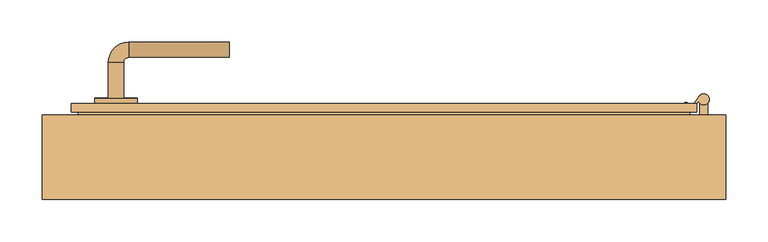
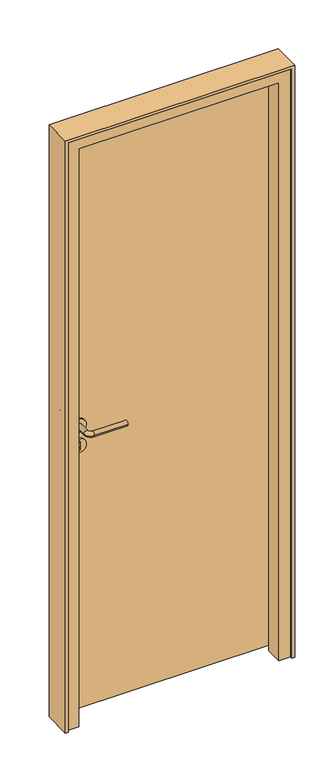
"""IFC4 building model written with IfcOpenShell, lengths in millimetres: door geometry, JW_Interior_Door_Steady_411_Single_1.0 : 790 x 1890 mm - M8 x M19."""

from ifc_helpers import new_model, si_unit, point, frame, frame_2d, origin, place, context, project, spatial, polyline, circle_curve, ellipse_curve, trimmed, segment, composite_curve, outline, extrude, faceted_brep, source, transform, mapped, element, save
from ifc_brep_helpers import plane_surface, cylinder_surface, revolved_surface, advanced_brep


def door_2890b558(model_context):
    return source(origin(), model_context, "Body", "SolidModel", [
        advanced_brep(
        [(372.6872752, 66.5978645, 1955.5), (373.5783674, 72.2251091, 1955.5), (365.8301085, 61.1594486, 1955.5), (364.7031605, 60.9607372, 1955.5), (359.8029699, 64.3918876, 1955.5), (355.3284264, 63.6029049, 1955.5), (349.5796813, 56.2448467, 1955.5), (346.501374, 52.304793, 1955.5), (348.4714009, 50.7656393, 1955.5), (351.5497082, 54.705693, 1955.5), (357.3369261, 62.1129941, 1955.5), (358.4507117, 62.3093846, 1955.5), (363.3666753, 58.8671898, 1955.5), (367.824598, 59.6532419, 1955.5), (372.6872752, 66.5978645, 1890.5), (367.824598, 59.6532419, 1890.5), (363.3666753, 58.8671898, 1890.5), (358.4507117, 62.3093846, 1890.5), (357.3369261, 62.1129941, 1890.5), (351.5497082, 54.705693, 1890.5), (348.4714009, 50.7656393, 1890.5), (346.501374, 52.304793, 1890.5), (349.5796813, 56.2448467, 1890.5), (355.3284264, 63.6029049, 1890.5), (359.8029699, 64.3918876, 1890.5), (364.7031605, 60.9607372, 1890.5), (365.8301085, 61.1594486, 1890.5), (373.5783674, 72.2251091, 1890.5), (373.5783674, 72.2251091, 1910.0), (372.6872752, 66.5978645, 1910.0), (372.6872752, 66.5978645, 1936.0), (373.5783674, 72.2251091, 1936.0), (367.824598, 59.6532419, 1910.0), (367.824598, 59.6532419, 1936.0), (363.3666753, 58.8671898, 1910.0), (363.3666753, 58.8671898, 1936.0), (361.0722318, 60.4737764, 1910.0), (361.0722318, 60.4737764, 1936.0), (342.3147861, 42.8855317, 1945.5), (342.3147861, 42.8855317, 1900.5), (340.3447592, 44.4246854, 1945.5), (340.3447592, 44.4246854, 1900.5), (364.7031605, 60.9607372, 1936.0), (362.4955675, 62.5065104, 1936.0), (362.4955675, 62.5065104, 1910.0), (364.7031605, 60.9607372, 1910.0), (365.8301085, 61.1594486, 1910.0), (365.8301085, 61.1594486, 1936.0)],
        [
            (0, 1, circle_curve(frame((378.9011559, 68.4980525, 1955.5), z_axis=(0.0, 0.0, 1.0), x_axis=(-0.5735764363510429, -0.819152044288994, 0.0)), 6.4979249)),
            (1, 2),
            (2, 3, circle_curve(frame((365.1672788, 61.6235669, 1955.5), z_axis=(0.0, 0.0, -1.0), x_axis=(-0.5735764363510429, -0.819152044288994, 0.0)), 0.8091657)),
            (3, 4),
            (4, 5, circle_curve(frame((357.9601895, 61.7601245, 1955.5), z_axis=(0.0, 0.0, 1.0), x_axis=(-0.5735764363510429, -0.819152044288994, 0.0)), 3.2127895)),
            (5, 6),
            (6, 7),
            (7, 8),
            (8, 9),
            (9, 10),
            (10, 11, circle_curve(frame((357.9920141, 61.6542966, 1955.5), z_axis=(0.0, 0.0, -1.0), x_axis=(-0.5735764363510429, -0.819152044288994, 0.0)), 0.7997148)),
            (11, 12),
            (12, 13, circle_curve(frame((365.2026106, 61.4891772, 1955.5), z_axis=(0.0, 0.0, 1.0), x_axis=(-0.5735764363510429, -0.819152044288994, 0.0)), 3.2008556)),
            (13, 0),
            (14, 15),
            (15, 16, circle_curve(frame((365.2026106, 61.4891772, 1890.5), z_axis=(0.0, 0.0, -1.0), x_axis=(-0.5735764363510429, -0.819152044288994, 0.0)), 3.2008556)),
            (16, 17),
            (17, 18, circle_curve(frame((357.9920141, 61.6542966, 1890.5), z_axis=(0.0, 0.0, 1.0), x_axis=(-0.5735764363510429, -0.819152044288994, 0.0)), 0.7997148)),
            (18, 19),
            (19, 20),
            (20, 21),
            (21, 22),
            (22, 23),
            (23, 24, circle_curve(frame((357.9601895, 61.7601245, 1890.5), z_axis=(0.0, 0.0, -1.0), x_axis=(-0.5735764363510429, -0.819152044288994, 0.0)), 3.2127895)),
            (24, 25),
            (25, 26, circle_curve(frame((365.1672788, 61.6235669, 1890.5), z_axis=(0.0, 0.0, 1.0), x_axis=(-0.5735764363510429, -0.819152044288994, 0.0)), 0.8091657)),
            (26, 27),
            (27, 14, circle_curve(frame((378.9011559, 68.4980525, 1890.5), z_axis=(0.0, 0.0, -1.0), x_axis=(-0.5735764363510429, -0.819152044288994, 0.0)), 6.4979249)),
            (27, 28),
            (28, 29, circle_curve(frame((378.9011559, 68.4980525, 1910.0), z_axis=(0.0, 0.0, -1.0), x_axis=(-0.5735764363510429, -0.819152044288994, 0.0)), 6.4979249)),
            (29, 14),
            (0, 30),
            (30, 31, circle_curve(frame((378.9011559, 68.4980525, 1936.0), z_axis=(0.0, 0.0, 1.0), x_axis=(-0.5735764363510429, -0.819152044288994, 0.0)), 6.4979249)),
            (31, 1),
            (29, 32),
            (32, 15),
            (13, 33),
            (33, 30),
            (32, 34, circle_curve(frame((365.2026106, 61.4891772, 1910.0), z_axis=(0.0, 0.0, -1.0), x_axis=(-0.5735764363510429, -0.819152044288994, 0.0)), 3.2008556)),
            (34, 16),
            (12, 35),
            (35, 33, circle_curve(frame((365.2026106, 61.4891772, 1936.0), z_axis=(0.0, 0.0, 1.0), x_axis=(-0.5735764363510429, -0.819152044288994, 0.0)), 3.2008556)),
            (11, 17),
            (34, 36),
            (36, 37),
            (37, 35),
            (10, 18),
            (8, 38, circle_curve(frame((348.4714009, 50.7656393, 1945.5), z_axis=(0.7880107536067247, -0.6156614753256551, 0.0), x_axis=(0.615661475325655, 0.7880107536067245, 0.0)), 10.0)),
            (38, 39),
            (39, 20, circle_curve(frame((348.4714009, 50.7656393, 1900.5), z_axis=(0.7880107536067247, -0.6156614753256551, 0.0), x_axis=(0.615661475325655, 0.7880107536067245, 0.0)), 10.0)),
            (38, 40),
            (40, 41),
            (41, 39),
            (21, 41, circle_curve(frame((346.501374, 52.304793, 1900.5), z_axis=(-0.7880107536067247, 0.6156614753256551, 0.0), x_axis=(0.615661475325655, 0.7880107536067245, 0.0)), 10.0)),
            (40, 7, circle_curve(frame((346.501374, 52.304793, 1945.5), z_axis=(-0.7880107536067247, 0.6156614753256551, 0.0), x_axis=(0.615661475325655, 0.7880107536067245, 0.0)), 10.0)),
            (5, 23),
            (4, 24),
            (3, 42),
            (42, 43),
            (43, 44),
            (44, 45),
            (45, 25),
            (45, 46, circle_curve(frame((365.1672788, 61.6235669, 1910.0), z_axis=(0.0, 0.0, 1.0), x_axis=(-0.5735764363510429, -0.819152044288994, 0.0)), 0.8091657)),
            (46, 26),
            (2, 47),
            (47, 42, circle_curve(frame((365.1672788, 61.6235669, 1936.0), z_axis=(0.0, 0.0, -1.0), x_axis=(-0.5735764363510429, -0.819152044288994, 0.0)), 0.8091657)),
            (31, 47),
            (46, 28),
            (37, 43),
            (44, 36),
        ],
        [
            plane_surface(frame((367.824598, 59.6532419, 1955.5), z_axis=(0.0, 0.0, 1.0000000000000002), x_axis=(-0.5735764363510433, -0.8191520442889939, 0.0))),
            plane_surface(frame((367.824598, 59.6532419, 1890.5), z_axis=(0.0, 0.0, -1.0000000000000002), x_axis=(0.5735764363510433, 0.8191520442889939, 0.0))),
            cylinder_surface(frame((378.9011559, 68.4980525, 1890.5), z_axis=(0.0, 0.0, 1.0), x_axis=(-0.5735764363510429, -0.819152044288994, 0.0)), 6.4979249),
            plane_surface(frame((372.6872752, 66.5978645, 1955.5), z_axis=(0.8191520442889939, -0.5735764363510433, 0.0), x_axis=(0.0, 0.0, -1.0))),
            cylinder_surface(frame((365.2026106, 61.4891772, 1890.5), z_axis=(0.0, 0.0, 1.0), x_axis=(-0.5735764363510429, -0.819152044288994, 0.0)), 3.2008556),
            plane_surface(frame((363.3666753, 58.8671898, 1955.5), z_axis=(-0.573576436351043, -0.819152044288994, 0.0), x_axis=(0.0, 0.0, -1.0))),
            revolved_surface(polyline([(357.5333165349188, 60.99920858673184, 1890.5), (357.5333165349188, 60.99920858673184, 1955.5)]), (357.9920141, 61.6542966, 1890.5), (0.0, 0.0, -1.0)),
            plane_surface(frame((357.3369261, 62.1129941, 1955.5), z_axis=(0.7880107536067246, -0.615661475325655, 0.0), x_axis=(0.0, 0.0, -1.0))),
            plane_surface(frame((342.3147861, 42.8855317, 1955.5), z_axis=(-0.6156614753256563, -0.7880107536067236, 0.0), x_axis=(0.0, 0.0, -1.0))),
            plane_surface(frame((340.3447592, 44.4246854, 1955.5), z_axis=(-0.7880107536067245, 0.6156614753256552, 0.0), x_axis=(0.0, 0.0, -1.0))),
            cylinder_surface(frame((357.9601895, 61.7601245, 1890.5), z_axis=(0.0, 0.0, 1.0), x_axis=(-0.5735764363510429, -0.819152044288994, 0.0)), 3.2127895),
            plane_surface(frame((359.8029699, 64.3918876, 1955.5), z_axis=(0.5735764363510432, 0.8191520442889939, 0.0), x_axis=(0.0, 0.0, -1.0))),
            revolved_surface(polyline([(364.70316042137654, 60.960737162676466, 1890.5), (364.70316042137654, 60.960737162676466, 1910.0)]), (365.1672788, 61.6235669, 1890.5), (0.0, 0.0, -1.0)),
            revolved_surface(polyline([(364.70316042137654, 60.960737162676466, 1936.0), (364.70316042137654, 60.960737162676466, 1955.5)]), (365.1672788, 61.6235669, 1890.5), (0.0, 0.0, -1.0)),
            plane_surface(frame((365.8301085, 61.1594486, 1955.5), z_axis=(-0.819152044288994, 0.573576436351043, 0.0), x_axis=(0.0, 0.0, -1.0))),
            plane_surface(frame((390.8814134, 72.3872146, 1936.0), z_axis=(0.0, 0.0, -1.0000000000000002), x_axis=(0.8191520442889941, -0.5735764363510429, 0.0))),
            plane_surface(frame((390.8814134, 72.3872146, 1910.0), z_axis=(0.0, 0.0, 1.0000000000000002), x_axis=(-0.8191520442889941, 0.5735764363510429, 0.0))),
            plane_surface(frame((359.2693443, 57.8989861, 1936.0), z_axis=(0.8191520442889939, -0.5735764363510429, 0.0), x_axis=(0.0, 0.0, -1.0))),
            cylinder_surface(frame((352.4114546, 47.6873319, 1900.5), z_axis=(0.7880107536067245, -0.615661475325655, 0.0), x_axis=(0.615661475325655, 0.7880107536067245, 0.0)), 10.0),
            cylinder_surface(frame((352.4114546, 47.6873319, 1945.5), z_axis=(0.7880107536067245, -0.615661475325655, 0.0), x_axis=(0.615661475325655, 0.7880107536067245, 0.0)), 10.0),
        ],
        [
            (0, [[1, 2, 3, 4, 5, 6, 7, 8, 9, 10, 11, 12, 13, 14]]),
            (1, [[15, 16, 17, 18, 19, 20, 21, 22, 23, 24, 25, 26, 27, 28]]),
            (2, [[29, 30, 31, -28]]),
            (2, [[32, 33, 34, -1]]),
            (3, [[-31, 35, 36, -15]]),
            (3, [[37, 38, -32, -14]]),
            (4, [[-36, 39, 40, -16]]),
            (4, [[41, 42, -37, -13]]),
            (5, [[43, -17, -40, 44, 45, 46, -41, -12]]),
            (6, [[47, -18, -43, -11]]),
            (7, [[-10, -9, 48, 49, 50, -20, -19, -47]]),
            (8, [[51, 52, 53, -49]]),
            (9, [[-23, -22, 54, -52, 55, -7, -6, 56]]),
            (10, [[57, -24, -56, -5]]),
            (11, [[58, 59, 60, 61, 62, -25, -57, -4]]),
            (12, [[-62, 63, 64, -26]]),
            (13, [[65, 66, -58, -3]]),
            (14, [[-34, 67, -65, -2]]),
            (14, [[-64, 68, -29, -27]]),
            (15, [[-59, -66, -67, -33, -38, -42, -46, 69]]),
            (16, [[-44, -39, -35, -30, -68, -63, -61, 70]]),
            (17, [[-45, -70, -60, -69]]),
            (18, [[-50, -53, -54, -21]]),
            (19, [[-55, -51, -48, -8]]),
        ],
    ),
        extrude(outline(composite_curve([segment(trimmed(circle_curve(frame_2d((378.9, 68.5)), 3.75), [point((375.15, 68.5))], [point((382.65, 68.5))], False, "CARTESIAN"), True, "CONTINUOUS"), segment(trimmed(circle_curve(frame_2d((378.9, 68.5)), 3.75), [point((382.65, 68.5))], [point((375.15, 68.5))], False, "CARTESIAN"), True, "CONTINUOUS")], self_intersect=False)), frame((0.0, 0.0, 1890.5), z_axis=(0.0, 0.0, 1.0), x_axis=(1.0, 0.0, 0.0)), (0.0, 0.0, 1.0), 65.0),
        extrude(outline(composite_curve([segment(polyline([(383.9, 64.3466881), (383.9, 50.0), (373.9, 50.0), (373.9, 64.3466881)]), True, "CONTINUOUS"), segment(trimmed(circle_curve(frame_2d((378.9, 68.5)), 6.5), [point((373.9, 64.3466881))], [point((383.9, 64.3466881))], False, "CARTESIAN"), True, "CONTINUOUS")], self_intersect=False)), frame((0.0, 0.0, 1913.0), z_axis=(0.0, 0.0, 1.0), x_axis=(1.0, 0.0, 0.0)), (0.0, 0.0, 1.0), 20.0),
        advanced_brep(
        [(372.6872752, 66.5978645, 1705.5), (373.5783674, 72.2251091, 1705.5), (365.8301085, 61.1594486, 1705.5), (364.7031605, 60.9607372, 1705.5), (359.8029699, 64.3918876, 1705.5), (355.3284264, 63.6029049, 1705.5), (349.5796813, 56.2448467, 1705.5), (346.501374, 52.304793, 1705.5), (348.4714009, 50.7656393, 1705.5), (351.5497082, 54.705693, 1705.5), (357.3369261, 62.1129941, 1705.5), (358.4507117, 62.3093846, 1705.5), (363.3666753, 58.8671898, 1705.5), (367.824598, 59.6532419, 1705.5), (372.6872752, 66.5978645, 1640.5), (367.824598, 59.6532419, 1640.5), (363.3666753, 58.8671898, 1640.5), (358.4507117, 62.3093846, 1640.5), (357.3369261, 62.1129941, 1640.5), (351.5497082, 54.705693, 1640.5), (348.4714009, 50.7656393, 1640.5), (346.501374, 52.304793, 1640.5), (349.5796813, 56.2448467, 1640.5), (355.3284264, 63.6029049, 1640.5), (359.8029699, 64.3918876, 1640.5), (364.7031605, 60.9607372, 1640.5), (365.8301085, 61.1594486, 1640.5), (373.5783674, 72.2251091, 1640.5), (373.5783674, 72.2251091, 1660.0), (372.6872752, 66.5978645, 1660.0), (372.6872752, 66.5978645, 1686.0), (373.5783674, 72.2251091, 1686.0), (367.824598, 59.6532419, 1660.0), (367.824598, 59.6532419, 1686.0), (363.3666753, 58.8671898, 1660.0), (363.3666753, 58.8671898, 1686.0), (361.0722318, 60.4737764, 1660.0), (361.0722318, 60.4737764, 1686.0), (342.3147861, 42.8855317, 1695.5), (342.3147861, 42.8855317, 1650.5), (340.3447592, 44.4246854, 1695.5), (340.3447592, 44.4246854, 1650.5), (364.7031605, 60.9607372, 1686.0), (362.4955675, 62.5065104, 1686.0), (362.4955675, 62.5065104, 1660.0), (364.7031605, 60.9607372, 1660.0), (365.8301085, 61.1594486, 1660.0), (365.8301085, 61.1594486, 1686.0)],
        [
            (0, 1, circle_curve(frame((378.9011559, 68.4980525, 1705.5), z_axis=(0.0, 0.0, 1.0), x_axis=(-0.5735764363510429, -0.819152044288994, 0.0)), 6.4979249)),
            (1, 2),
            (2, 3, circle_curve(frame((365.1672788, 61.6235669, 1705.5), z_axis=(0.0, 0.0, -1.0), x_axis=(-0.5735764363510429, -0.819152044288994, 0.0)), 0.8091657)),
            (3, 4),
            (4, 5, circle_curve(frame((357.9601895, 61.7601245, 1705.5), z_axis=(0.0, 0.0, 1.0), x_axis=(-0.5735764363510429, -0.819152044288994, 0.0)), 3.2127895)),
            (5, 6),
            (6, 7),
            (7, 8),
            (8, 9),
            (9, 10),
            (10, 11, circle_curve(frame((357.9920141, 61.6542966, 1705.5), z_axis=(0.0, 0.0, -1.0), x_axis=(-0.5735764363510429, -0.819152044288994, 0.0)), 0.7997148)),
            (11, 12),
            (12, 13, circle_curve(frame((365.2026106, 61.4891772, 1705.5), z_axis=(0.0, 0.0, 1.0), x_axis=(-0.5735764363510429, -0.819152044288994, 0.0)), 3.2008556)),
            (13, 0),
            (14, 15),
            (15, 16, circle_curve(frame((365.2026106, 61.4891772, 1640.5), z_axis=(0.0, 0.0, -1.0), x_axis=(-0.5735764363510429, -0.819152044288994, 0.0)), 3.2008556)),
            (16, 17),
            (17, 18, circle_curve(frame((357.9920141, 61.6542966, 1640.5), z_axis=(0.0, 0.0, 1.0), x_axis=(-0.5735764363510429, -0.819152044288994, 0.0)), 0.7997148)),
            (18, 19),
            (19, 20),
            (20, 21),
            (21, 22),
            (22, 23),
            (23, 24, circle_curve(frame((357.9601895, 61.7601245, 1640.5), z_axis=(0.0, 0.0, -1.0), x_axis=(-0.5735764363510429, -0.819152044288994, 0.0)), 3.2127895)),
            (24, 25),
            (25, 26, circle_curve(frame((365.1672788, 61.6235669, 1640.5), z_axis=(0.0, 0.0, 1.0), x_axis=(-0.5735764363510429, -0.819152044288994, 0.0)), 0.8091657)),
            (26, 27),
            (27, 14, circle_curve(frame((378.9011559, 68.4980525, 1640.5), z_axis=(0.0, 0.0, -1.0), x_axis=(-0.5735764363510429, -0.819152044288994, 0.0)), 6.4979249)),
            (27, 28),
            (28, 29, circle_curve(frame((378.9011559, 68.4980525, 1660.0), z_axis=(0.0, 0.0, -1.0), x_axis=(-0.5735764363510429, -0.819152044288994, 0.0)), 6.4979249)),
            (29, 14),
            (0, 30),
            (30, 31, circle_curve(frame((378.9011559, 68.4980525, 1686.0), z_axis=(0.0, 0.0, 1.0), x_axis=(-0.5735764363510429, -0.819152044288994, 0.0)), 6.4979249)),
            (31, 1),
            (29, 32),
            (32, 15),
            (13, 33),
            (33, 30),
            (32, 34, circle_curve(frame((365.2026106, 61.4891772, 1660.0), z_axis=(0.0, 0.0, -1.0), x_axis=(-0.5735764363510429, -0.819152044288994, 0.0)), 3.2008556)),
            (34, 16),
            (12, 35),
            (35, 33, circle_curve(frame((365.2026106, 61.4891772, 1686.0), z_axis=(0.0, 0.0, 1.0), x_axis=(-0.5735764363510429, -0.819152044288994, 0.0)), 3.2008556)),
            (11, 17),
            (34, 36),
            (36, 37),
            (37, 35),
            (10, 18),
            (8, 38, circle_curve(frame((348.4714009, 50.7656393, 1695.5), z_axis=(0.7880107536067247, -0.6156614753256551, 0.0), x_axis=(0.615661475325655, 0.7880107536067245, 0.0)), 10.0)),
            (38, 39),
            (39, 20, circle_curve(frame((348.4714009, 50.7656393, 1650.5), z_axis=(0.7880107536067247, -0.6156614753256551, 0.0), x_axis=(0.615661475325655, 0.7880107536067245, 0.0)), 10.0)),
            (38, 40),
            (40, 41),
            (41, 39),
            (21, 41, circle_curve(frame((346.501374, 52.304793, 1650.5), z_axis=(-0.7880107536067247, 0.6156614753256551, 0.0), x_axis=(0.615661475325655, 0.7880107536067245, 0.0)), 10.0)),
            (40, 7, circle_curve(frame((346.501374, 52.304793, 1695.5), z_axis=(-0.7880107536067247, 0.6156614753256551, 0.0), x_axis=(0.615661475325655, 0.7880107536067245, 0.0)), 10.0)),
            (5, 23),
            (4, 24),
            (3, 42),
            (42, 43),
            (43, 44),
            (44, 45),
            (45, 25),
            (45, 46, circle_curve(frame((365.1672788, 61.6235669, 1660.0), z_axis=(0.0, 0.0, 1.0), x_axis=(-0.5735764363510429, -0.819152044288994, 0.0)), 0.8091657)),
            (46, 26),
            (2, 47),
            (47, 42, circle_curve(frame((365.1672788, 61.6235669, 1686.0), z_axis=(0.0, 0.0, -1.0), x_axis=(-0.5735764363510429, -0.819152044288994, 0.0)), 0.8091657)),
            (31, 47),
            (46, 28),
            (37, 43),
            (44, 36),
        ],
        [
            plane_surface(frame((367.824598, 59.6532419, 1705.5), z_axis=(0.0, 0.0, 1.0000000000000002), x_axis=(-0.5735764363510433, -0.8191520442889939, 0.0))),
            plane_surface(frame((367.824598, 59.6532419, 1640.5), z_axis=(0.0, 0.0, -1.0000000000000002), x_axis=(0.5735764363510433, 0.8191520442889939, 0.0))),
            cylinder_surface(frame((378.9011559, 68.4980525, 1640.5), z_axis=(0.0, 0.0, 1.0), x_axis=(-0.5735764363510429, -0.819152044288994, 0.0)), 6.4979249),
            plane_surface(frame((372.6872752, 66.5978645, 1705.5), z_axis=(0.8191520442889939, -0.5735764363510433, 0.0), x_axis=(0.0, 0.0, -1.0))),
            cylinder_surface(frame((365.2026106, 61.4891772, 1640.5), z_axis=(0.0, 0.0, 1.0), x_axis=(-0.5735764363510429, -0.819152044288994, 0.0)), 3.2008556),
            plane_surface(frame((363.3666753, 58.8671898, 1705.5), z_axis=(-0.573576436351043, -0.819152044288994, 0.0), x_axis=(0.0, 0.0, -1.0))),
            revolved_surface(polyline([(357.5333165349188, 60.99920858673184, 1640.5), (357.5333165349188, 60.99920858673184, 1705.5)]), (357.9920141, 61.6542966, 1640.5), (0.0, 0.0, -1.0)),
            plane_surface(frame((357.3369261, 62.1129941, 1705.5), z_axis=(0.7880107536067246, -0.615661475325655, 0.0), x_axis=(0.0, 0.0, -1.0))),
            plane_surface(frame((342.3147861, 42.8855317, 1705.5), z_axis=(-0.6156614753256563, -0.7880107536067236, 0.0), x_axis=(0.0, 0.0, -1.0))),
            plane_surface(frame((340.3447592, 44.4246854, 1705.5), z_axis=(-0.7880107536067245, 0.6156614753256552, 0.0), x_axis=(0.0, 0.0, -1.0))),
            cylinder_surface(frame((357.9601895, 61.7601245, 1640.5), z_axis=(0.0, 0.0, 1.0), x_axis=(-0.5735764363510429, -0.819152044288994, 0.0)), 3.2127895),
            plane_surface(frame((359.8029699, 64.3918876, 1705.5), z_axis=(0.5735764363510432, 0.8191520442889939, 0.0), x_axis=(0.0, 0.0, -1.0))),
            revolved_surface(polyline([(364.70316042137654, 60.960737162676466, 1640.5), (364.70316042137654, 60.960737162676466, 1660.0)]), (365.1672788, 61.6235669, 1640.5), (0.0, 0.0, -1.0)),
            revolved_surface(polyline([(364.70316042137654, 60.960737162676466, 1686.0), (364.70316042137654, 60.960737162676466, 1705.5)]), (365.1672788, 61.6235669, 1640.5), (0.0, 0.0, -1.0)),
            plane_surface(frame((365.8301085, 61.1594486, 1705.5), z_axis=(-0.819152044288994, 0.573576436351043, 0.0), x_axis=(0.0, 0.0, -1.0))),
            plane_surface(frame((390.8814134, 72.3872146, 1686.0), z_axis=(0.0, 0.0, -1.0000000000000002), x_axis=(0.8191520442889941, -0.5735764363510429, 0.0))),
            plane_surface(frame((390.8814134, 72.3872146, 1660.0), z_axis=(0.0, 0.0, 1.0000000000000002), x_axis=(-0.8191520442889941, 0.5735764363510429, 0.0))),
            plane_surface(frame((359.2693443, 57.8989861, 1686.0), z_axis=(0.8191520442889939, -0.5735764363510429, 0.0), x_axis=(0.0, 0.0, -1.0))),
            cylinder_surface(frame((352.4114546, 47.6873319, 1650.5), z_axis=(0.7880107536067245, -0.615661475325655, 0.0), x_axis=(0.615661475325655, 0.7880107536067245, 0.0)), 10.0),
            cylinder_surface(frame((352.4114546, 47.6873319, 1695.5), z_axis=(0.7880107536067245, -0.615661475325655, 0.0), x_axis=(0.615661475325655, 0.7880107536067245, 0.0)), 10.0),
        ],
        [
            (0, [[1, 2, 3, 4, 5, 6, 7, 8, 9, 10, 11, 12, 13, 14]]),
            (1, [[15, 16, 17, 18, 19, 20, 21, 22, 23, 24, 25, 26, 27, 28]]),
            (2, [[29, 30, 31, -28]]),
            (2, [[32, 33, 34, -1]]),
            (3, [[-31, 35, 36, -15]]),
            (3, [[37, 38, -32, -14]]),
            (4, [[-36, 39, 40, -16]]),
            (4, [[41, 42, -37, -13]]),
            (5, [[43, -17, -40, 44, 45, 46, -41, -12]]),
            (6, [[47, -18, -43, -11]]),
            (7, [[-10, -9, 48, 49, 50, -20, -19, -47]]),
            (8, [[51, 52, 53, -49]]),
            (9, [[-23, -22, 54, -52, 55, -7, -6, 56]]),
            (10, [[57, -24, -56, -5]]),
            (11, [[58, 59, 60, 61, 62, -25, -57, -4]]),
            (12, [[-62, 63, 64, -26]]),
            (13, [[65, 66, -58, -3]]),
            (14, [[-34, 67, -65, -2]]),
            (14, [[-64, 68, -29, -27]]),
            (15, [[-59, -66, -67, -33, -38, -42, -46, 69]]),
            (16, [[-44, -39, -35, -30, -68, -63, -61, 70]]),
            (17, [[-45, -70, -60, -69]]),
            (18, [[-50, -53, -54, -21]]),
            (19, [[-55, -51, -48, -8]]),
        ],
    ),
        extrude(outline(composite_curve([segment(trimmed(circle_curve(frame_2d((378.9, 68.5)), 3.75), [point((375.15, 68.5))], [point((382.65, 68.5))], False, "CARTESIAN"), True, "CONTINUOUS"), segment(trimmed(circle_curve(frame_2d((378.9, 68.5)), 3.75), [point((382.65, 68.5))], [point((375.15, 68.5))], False, "CARTESIAN"), True, "CONTINUOUS")], self_intersect=False)), frame((0.0, 0.0, 1640.5), z_axis=(0.0, 0.0, 1.0), x_axis=(1.0, 0.0, 0.0)), (0.0, 0.0, 1.0), 65.0),
        extrude(outline(composite_curve([segment(polyline([(383.9, 64.3466881), (383.9, 50.0), (373.9, 50.0), (373.9, 64.3466881)]), True, "CONTINUOUS"), segment(trimmed(circle_curve(frame_2d((378.9, 68.5)), 6.5), [point((373.9, 64.3466881))], [point((383.9, 64.3466881))], False, "CARTESIAN"), True, "CONTINUOUS")], self_intersect=False)), frame((0.0, 0.0, 1663.0), z_axis=(0.0, 0.0, 1.0), x_axis=(1.0, 0.0, 0.0)), (0.0, 0.0, 1.0), 20.0),
        advanced_brep(
        [(372.6872752, 66.5978645, 295.5), (373.5783674, 72.2251091, 295.5), (365.8301085, 61.1594486, 295.5), (364.7031605, 60.9607372, 295.5), (359.8029699, 64.3918876, 295.5), (355.3284264, 63.6029049, 295.5), (349.5796813, 56.2448467, 295.5), (346.501374, 52.304793, 295.5), (348.4714009, 50.7656393, 295.5), (351.5497082, 54.705693, 295.5), (357.3369261, 62.1129941, 295.5), (358.4507117, 62.3093846, 295.5), (363.3666753, 58.8671898, 295.5), (367.824598, 59.6532419, 295.5), (372.6872752, 66.5978645, 230.5), (367.824598, 59.6532419, 230.5), (363.3666753, 58.8671898, 230.5), (358.4507117, 62.3093846, 230.5), (357.3369261, 62.1129941, 230.5), (351.5497082, 54.705693, 230.5), (348.4714009, 50.7656393, 230.5), (346.501374, 52.304793, 230.5), (349.5796813, 56.2448467, 230.5), (355.3284264, 63.6029049, 230.5), (359.8029699, 64.3918876, 230.5), (364.7031605, 60.9607372, 230.5), (365.8301085, 61.1594486, 230.5), (373.5783674, 72.2251091, 230.5), (373.5783674, 72.2251091, 250.0), (372.6872752, 66.5978645, 250.0), (372.6872752, 66.5978645, 276.0), (373.5783674, 72.2251091, 276.0), (367.824598, 59.6532419, 250.0), (367.824598, 59.6532419, 276.0), (363.3666753, 58.8671898, 250.0), (363.3666753, 58.8671898, 276.0), (361.0722318, 60.4737764, 250.0), (361.0722318, 60.4737764, 276.0), (342.3147861, 42.8855317, 285.5), (342.3147861, 42.8855317, 240.5), (340.3447592, 44.4246854, 285.5), (340.3447592, 44.4246854, 240.5), (364.7031605, 60.9607372, 276.0), (362.4955675, 62.5065104, 276.0), (362.4955675, 62.5065104, 250.0), (364.7031605, 60.9607372, 250.0), (365.8301085, 61.1594486, 250.0), (365.8301085, 61.1594486, 276.0)],
        [
            (0, 1, circle_curve(frame((378.9011559, 68.4980525, 295.5), z_axis=(0.0, 0.0, 1.0), x_axis=(-0.5735764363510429, -0.819152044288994, 0.0)), 6.4979249)),
            (1, 2),
            (2, 3, circle_curve(frame((365.1672788, 61.6235669, 295.5), z_axis=(0.0, 0.0, -1.0), x_axis=(-0.5735764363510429, -0.819152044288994, 0.0)), 0.8091657)),
            (3, 4),
            (4, 5, circle_curve(frame((357.9601895, 61.7601245, 295.5), z_axis=(0.0, 0.0, 1.0), x_axis=(-0.5735764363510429, -0.819152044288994, 0.0)), 3.2127895)),
            (5, 6),
            (6, 7),
            (7, 8),
            (8, 9),
            (9, 10),
            (10, 11, circle_curve(frame((357.9920141, 61.6542966, 295.5), z_axis=(0.0, 0.0, -1.0), x_axis=(-0.5735764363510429, -0.819152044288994, 0.0)), 0.7997148)),
            (11, 12),
            (12, 13, circle_curve(frame((365.2026106, 61.4891772, 295.5), z_axis=(0.0, 0.0, 1.0), x_axis=(-0.5735764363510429, -0.819152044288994, 0.0)), 3.2008556)),
            (13, 0),
            (14, 15),
            (15, 16, circle_curve(frame((365.2026106, 61.4891772, 230.5), z_axis=(0.0, 0.0, -1.0), x_axis=(-0.5735764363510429, -0.819152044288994, 0.0)), 3.2008556)),
            (16, 17),
            (17, 18, circle_curve(frame((357.9920141, 61.6542966, 230.5), z_axis=(0.0, 0.0, 1.0), x_axis=(-0.5735764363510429, -0.819152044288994, 0.0)), 0.7997148)),
            (18, 19),
            (19, 20),
            (20, 21),
            (21, 22),
            (22, 23),
            (23, 24, circle_curve(frame((357.9601895, 61.7601245, 230.5), z_axis=(0.0, 0.0, -1.0), x_axis=(-0.5735764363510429, -0.819152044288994, 0.0)), 3.2127895)),
            (24, 25),
            (25, 26, circle_curve(frame((365.1672788, 61.6235669, 230.5), z_axis=(0.0, 0.0, 1.0), x_axis=(-0.5735764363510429, -0.819152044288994, 0.0)), 0.8091657)),
            (26, 27),
            (27, 14, circle_curve(frame((378.9011559, 68.4980525, 230.5), z_axis=(0.0, 0.0, -1.0), x_axis=(-0.5735764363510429, -0.819152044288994, 0.0)), 6.4979249)),
            (27, 28),
            (28, 29, circle_curve(frame((378.9011559, 68.4980525, 250.0), z_axis=(0.0, 0.0, -1.0), x_axis=(-0.5735764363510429, -0.819152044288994, 0.0)), 6.4979249)),
            (29, 14),
            (0, 30),
            (30, 31, circle_curve(frame((378.9011559, 68.4980525, 276.0), z_axis=(0.0, 0.0, 1.0), x_axis=(-0.5735764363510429, -0.819152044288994, 0.0)), 6.4979249)),
            (31, 1),
            (29, 32),
            (32, 15),
            (13, 33),
            (33, 30),
            (32, 34, circle_curve(frame((365.2026106, 61.4891772, 250.0), z_axis=(0.0, 0.0, -1.0), x_axis=(-0.5735764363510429, -0.819152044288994, 0.0)), 3.2008556)),
            (34, 16),
            (12, 35),
            (35, 33, circle_curve(frame((365.2026106, 61.4891772, 276.0), z_axis=(0.0, 0.0, 1.0), x_axis=(-0.5735764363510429, -0.819152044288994, 0.0)), 3.2008556)),
            (11, 17),
            (34, 36),
            (36, 37),
            (37, 35),
            (10, 18),
            (8, 38, circle_curve(frame((348.4714009, 50.7656393, 285.5), z_axis=(0.7880107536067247, -0.6156614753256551, 0.0), x_axis=(0.615661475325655, 0.7880107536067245, 0.0)), 10.0)),
            (38, 39),
            (39, 20, circle_curve(frame((348.4714009, 50.7656393, 240.5), z_axis=(0.7880107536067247, -0.6156614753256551, 0.0), x_axis=(0.615661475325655, 0.7880107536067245, 0.0)), 10.0)),
            (38, 40),
            (40, 41),
            (41, 39),
            (21, 41, circle_curve(frame((346.501374, 52.304793, 240.5), z_axis=(-0.7880107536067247, 0.6156614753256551, 0.0), x_axis=(0.615661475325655, 0.7880107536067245, 0.0)), 10.0)),
            (40, 7, circle_curve(frame((346.501374, 52.304793, 285.5), z_axis=(-0.7880107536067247, 0.6156614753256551, 0.0), x_axis=(0.615661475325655, 0.7880107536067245, 0.0)), 10.0)),
            (5, 23),
            (4, 24),
            (3, 42),
            (42, 43),
            (43, 44),
            (44, 45),
            (45, 25),
            (45, 46, circle_curve(frame((365.1672788, 61.6235669, 250.0), z_axis=(0.0, 0.0, 1.0), x_axis=(-0.5735764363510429, -0.819152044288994, 0.0)), 0.8091657)),
            (46, 26),
            (2, 47),
            (47, 42, circle_curve(frame((365.1672788, 61.6235669, 276.0), z_axis=(0.0, 0.0, -1.0), x_axis=(-0.5735764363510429, -0.819152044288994, 0.0)), 0.8091657)),
            (31, 47),
            (46, 28),
            (37, 43),
            (44, 36),
        ],
        [
            plane_surface(frame((367.824598, 59.6532419, 295.5), z_axis=(0.0, 0.0, 1.0000000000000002), x_axis=(-0.5735764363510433, -0.8191520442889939, 0.0))),
            plane_surface(frame((367.824598, 59.6532419, 230.5), z_axis=(0.0, 0.0, -1.0000000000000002), x_axis=(0.5735764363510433, 0.8191520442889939, 0.0))),
            cylinder_surface(frame((378.9011559, 68.4980525, 230.5), z_axis=(0.0, 0.0, 1.0), x_axis=(-0.5735764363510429, -0.819152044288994, 0.0)), 6.4979249),
            plane_surface(frame((372.6872752, 66.5978645, 295.5), z_axis=(0.8191520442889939, -0.5735764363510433, 0.0), x_axis=(0.0, 0.0, -1.0))),
            cylinder_surface(frame((365.2026106, 61.4891772, 230.5), z_axis=(0.0, 0.0, 1.0), x_axis=(-0.5735764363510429, -0.819152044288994, 0.0)), 3.2008556),
            plane_surface(frame((363.3666753, 58.8671898, 295.5), z_axis=(-0.573576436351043, -0.819152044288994, 0.0), x_axis=(0.0, 0.0, -1.0))),
            revolved_surface(polyline([(357.5333165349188, 60.99920858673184, 230.5), (357.5333165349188, 60.99920858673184, 295.5)]), (357.9920141, 61.6542966, 230.5), (0.0, 0.0, -1.0)),
            plane_surface(frame((357.3369261, 62.1129941, 295.5), z_axis=(0.7880107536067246, -0.615661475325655, 0.0), x_axis=(0.0, 0.0, -1.0))),
            plane_surface(frame((342.3147861, 42.8855317, 295.5), z_axis=(-0.6156614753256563, -0.7880107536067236, 0.0), x_axis=(0.0, 0.0, -1.0))),
            plane_surface(frame((340.3447592, 44.4246854, 295.5), z_axis=(-0.7880107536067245, 0.6156614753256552, 0.0), x_axis=(0.0, 0.0, -1.0))),
            cylinder_surface(frame((357.9601895, 61.7601245, 230.5), z_axis=(0.0, 0.0, 1.0), x_axis=(-0.5735764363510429, -0.819152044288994, 0.0)), 3.2127895),
            plane_surface(frame((359.8029699, 64.3918876, 295.5), z_axis=(0.5735764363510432, 0.8191520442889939, 0.0), x_axis=(0.0, 0.0, -1.0))),
            revolved_surface(polyline([(364.70316042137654, 60.960737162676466, 230.5), (364.70316042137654, 60.960737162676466, 250.0)]), (365.1672788, 61.6235669, 230.5), (0.0, 0.0, -1.0)),
            revolved_surface(polyline([(364.70316042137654, 60.960737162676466, 276.0), (364.70316042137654, 60.960737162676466, 295.5)]), (365.1672788, 61.6235669, 230.5), (0.0, 0.0, -1.0)),
            plane_surface(frame((365.8301085, 61.1594486, 295.5), z_axis=(-0.819152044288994, 0.573576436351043, 0.0), x_axis=(0.0, 0.0, -1.0))),
            plane_surface(frame((390.8814134, 72.3872146, 276.0), z_axis=(0.0, 0.0, -1.0000000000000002), x_axis=(0.8191520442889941, -0.5735764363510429, 0.0))),
            plane_surface(frame((390.8814134, 72.3872146, 250.0), z_axis=(0.0, 0.0, 1.0000000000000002), x_axis=(-0.8191520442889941, 0.5735764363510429, 0.0))),
            plane_surface(frame((359.2693443, 57.8989861, 276.0), z_axis=(0.8191520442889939, -0.5735764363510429, 0.0), x_axis=(0.0, 0.0, -1.0))),
            cylinder_surface(frame((352.4114546, 47.6873319, 240.5), z_axis=(0.7880107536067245, -0.615661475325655, 0.0), x_axis=(0.615661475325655, 0.7880107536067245, 0.0)), 10.0),
            cylinder_surface(frame((352.4114546, 47.6873319, 285.5), z_axis=(0.7880107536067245, -0.615661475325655, 0.0), x_axis=(0.615661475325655, 0.7880107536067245, 0.0)), 10.0),
        ],
        [
            (0, [[1, 2, 3, 4, 5, 6, 7, 8, 9, 10, 11, 12, 13, 14]]),
            (1, [[15, 16, 17, 18, 19, 20, 21, 22, 23, 24, 25, 26, 27, 28]]),
            (2, [[29, 30, 31, -28]]),
            (2, [[32, 33, 34, -1]]),
            (3, [[-31, 35, 36, -15]]),
            (3, [[37, 38, -32, -14]]),
            (4, [[-36, 39, 40, -16]]),
            (4, [[41, 42, -37, -13]]),
            (5, [[43, -17, -40, 44, 45, 46, -41, -12]]),
            (6, [[47, -18, -43, -11]]),
            (7, [[-10, -9, 48, 49, 50, -20, -19, -47]]),
            (8, [[51, 52, 53, -49]]),
            (9, [[-23, -22, 54, -52, 55, -7, -6, 56]]),
            (10, [[57, -24, -56, -5]]),
            (11, [[58, 59, 60, 61, 62, -25, -57, -4]]),
            (12, [[-62, 63, 64, -26]]),
            (13, [[65, 66, -58, -3]]),
            (14, [[-34, 67, -65, -2]]),
            (14, [[-64, 68, -29, -27]]),
            (15, [[-59, -66, -67, -33, -38, -42, -46, 69]]),
            (16, [[-44, -39, -35, -30, -68, -63, -61, 70]]),
            (17, [[-45, -70, -60, -69]]),
            (18, [[-50, -53, -54, -21]]),
            (19, [[-55, -51, -48, -8]]),
        ],
    ),
        extrude(outline(composite_curve([segment(trimmed(circle_curve(frame_2d((378.9, 68.5)), 3.75), [point((375.15, 68.5))], [point((382.65, 68.5))], False, "CARTESIAN"), True, "CONTINUOUS"), segment(trimmed(circle_curve(frame_2d((378.9, 68.5)), 3.75), [point((382.65, 68.5))], [point((375.15, 68.5))], False, "CARTESIAN"), True, "CONTINUOUS")], self_intersect=False)), frame((0.0, 0.0, 230.5), z_axis=(0.0, 0.0, 1.0), x_axis=(1.0, 0.0, 0.0)), (0.0, 0.0, 1.0), 65.0),
        extrude(outline(composite_curve([segment(polyline([(383.9, 64.3466881), (383.9, 50.0), (373.9, 50.0), (373.9, 64.3466881)]), True, "CONTINUOUS"), segment(trimmed(circle_curve(frame_2d((378.9, 68.5)), 6.5), [point((373.9, 64.3466881))], [point((383.9, 64.3466881))], False, "CARTESIAN"), True, "CONTINUOUS")], self_intersect=False)), frame((0.0, 0.0, 253.0), z_axis=(0.0, 0.0, 1.0), x_axis=(1.0, 0.0, 0.0)), (0.0, 0.0, 1.0), 20.0),
        faceted_brep([(-395.0, -42.0, 0.0), (-395.0, 50.0, 0.0), (-365.0, 50.0, 0.0), (-365.0, 20.0, 0.0), (-353.0, 20.0, 0.0), (-353.0, -42.0, 0.0), (-395.0, -42.0, 2200.0), (-395.0, 50.0, 2200.0), (395.0, 50.0, 2200.0), (395.0, 50.0, 0.0), (365.0, 50.0, 0.0), (365.0, 50.0, 2170.0), (-365.0, 50.0, 2170.0), (-365.0, 20.0, 2170.0), (365.0, 20.0, 2170.0), (365.0, 20.0, 0.0), (353.0, 20.0, 0.0), (353.0, 20.0, 2158.0), (-353.0, 20.0, 2158.0), (-353.0, -42.0, 2158.0), (353.0, -42.0, 2158.0), (353.0, -42.0, 0.0), (395.0, -42.0, 0.0), (395.0, -42.0, 2200.0)], [[[0, 1, 2, 3, 4, 5]], [[1, 0, 6, 7]], [[2, 1, 7, 8, 9, 10, 11, 12]], [[3, 2, 12, 13]], [[4, 3, 13, 14, 15, 16, 17, 18]], [[5, 4, 18, 19]], [[0, 5, 19, 20, 21, 22, 23, 6]], [[8, 23, 22, 9]], [[22, 21, 16, 15, 10, 9]], [[14, 11, 10, 15]], [[20, 17, 16, 21]], [[7, 6, 23, 8]], [[13, 12, 11, 14]], [[19, 18, 17, 20]]]),
        extrude(outline(composite_curve([segment(trimmed(circle_curve(frame_2d((1001.0, -317.5)), 25.0), [point((1001.0, -292.5))], [point((1001.0, -342.5))], False, "CARTESIAN"), True, "CONTINUOUS"), segment(trimmed(circle_curve(frame_2d((1001.0, -317.5)), 25.0), [point((1001.0, -342.5))], [point((1001.0, -292.5))], False, "CARTESIAN"), True, "CONTINUOUS")], self_intersect=False), holes=[composite_curve([segment(trimmed(circle_curve(frame_2d((1012.243411, -317.5)), 4.0), [point((1012.243411, -321.5))], [point((1012.243411, -313.5))], True, "CARTESIAN"), True, "CONTINUOUS"), segment(polyline([(1012.243411, -313.5), (989.756589, -313.5)]), True, "CONTINUOUS"), segment(trimmed(circle_curve(frame_2d((989.756589, -317.5)), 4.0), [point((989.756589, -313.5))], [point((989.756589, -321.5))], True, "CARTESIAN"), True, "CONTINUOUS"), segment(polyline([(989.756589, -321.5), (1012.243411, -321.5)]), True, "CONTINUOUS")], self_intersect=False)]), frame((0.0, 16.5, 0.0), z_axis=(0.0, 1.0, 0.0), x_axis=(0.0, 0.0, 1.0)), (0.0, 0.0, 1.0), 7.0),
        extrude(outline(composite_curve([segment(trimmed(circle_curve(frame_2d((1001.0, -317.5)), 25.0), [point((1001.0, -292.5))], [point((1001.0, -342.5))], False, "CARTESIAN"), True, "CONTINUOUS"), segment(trimmed(circle_curve(frame_2d((1001.0, -317.5)), 25.0), [point((1001.0, -342.5))], [point((1001.0, -292.5))], False, "CARTESIAN"), True, "CONTINUOUS")], self_intersect=False), holes=[composite_curve([segment(polyline([(989.756589, -321.5), (1012.243411, -321.5)]), True, "CONTINUOUS"), segment(trimmed(circle_curve(frame_2d((1012.243411, -317.5)), 4.0), [point((1012.243411, -321.5))], [point((1012.243411, -313.5))], True, "CARTESIAN"), True, "CONTINUOUS"), segment(polyline([(1012.243411, -313.5), (989.756589, -313.5)]), True, "CONTINUOUS"), segment(trimmed(circle_curve(frame_2d((989.756589, -317.5)), 4.0), [point((989.756589, -313.5))], [point((989.756589, -321.5))], True, "CARTESIAN"), True, "CONTINUOUS")], self_intersect=False)]), frame((0.0, 63.5, 0.0), z_axis=(0.0, 1.0, 0.0), x_axis=(0.0, 0.0, 1.0)), (0.0, 0.0, 1.0), 7.0),
        advanced_brep(
        [(-342.5, 17.5, 1075.0), (-292.5, 17.5, 1075.0), (-308.5346073, 17.5, 1075.0), (-326.4653927, 17.5, 1075.0), (-342.5, 23.5, 1075.0), (-292.5, 23.5, 1075.0), (-326.4653927, -25.4627146, 1075.0), (-308.5346073, -25.4627146, 1075.0), (-302.5, -49.4281073, 1075.0), (-302.5, -31.4973219, 1075.0), (-183.5, -31.4973219, 1075.0), (-183.5, -49.4281073, 1075.0)],
        [
            (0, 1, circle_curve(frame((-317.5, 17.5, 1075.0), z_axis=(0.0, -1.0, 0.0), x_axis=(1.0, 0.0, 0.0)), 25.0)),
            (1, 0, circle_curve(frame((-317.5, 17.5, 1075.0), z_axis=(0.0, -1.0, 0.0), x_axis=(1.0, 0.0, 0.0)), 25.0)),
            (2, 3, circle_curve(frame((-317.5, 17.5, 1075.0), z_axis=(0.0, 1.0, 0.0), x_axis=(-1.0, 0.0, 0.0)), 8.9653927)),
            (3, 2, circle_curve(frame((-317.5, 17.5, 1075.0), z_axis=(0.0, 1.0, 0.0), x_axis=(-1.0, 0.0, 0.0)), 8.9653927)),
            (4, 5, circle_curve(frame((-317.5, 23.5, 1075.0), z_axis=(0.0, 1.0, 0.0), x_axis=(1.0, 0.0, 0.0)), 25.0)),
            (5, 4, circle_curve(frame((-317.5, 23.5, 1075.0), z_axis=(0.0, 1.0, 0.0), x_axis=(1.0, 0.0, 0.0)), 25.0)),
            (0, 4),
            (5, 1),
            (3, 6),
            (6, 7, circle_curve(frame((-317.5, -25.4627146, 1075.0), z_axis=(0.0, 1.0, 0.0), x_axis=(-1.0, 0.0, 0.0)), 8.9653927)),
            (7, 2),
            (7, 6, circle_curve(frame((-317.5, -25.4627146, 1075.0), z_axis=(0.0, 1.0, 0.0), x_axis=(-1.0, 0.0, 0.0)), 8.9653927)),
            (6, 8, circle_curve(frame((-302.5, -25.4627146, 1075.0), z_axis=(0.0, 0.0, 1.0), x_axis=(-1.0, 0.0, 0.0)), 23.9653927)),
            (8, 9, circle_curve(frame((-302.5, -40.4627146, 1075.0), z_axis=(-1.0, 0.0, 0.0), x_axis=(0.0, -1.0, 0.0)), 8.9653927)),
            (9, 7, circle_curve(frame((-302.5, -25.4627146, 1075.0), z_axis=(0.0, 0.0, -1.0), x_axis=(-1.0, 0.0, 0.0)), 6.0346073)),
            (9, 8, circle_curve(frame((-302.5, -40.4627146, 1075.0), z_axis=(-1.0, 0.0, 0.0), x_axis=(0.0, -1.0, 0.0)), 8.9653927)),
            (10, 11, circle_curve(frame((-183.5, -40.4627146, 1075.0), z_axis=(1.0, 0.0, 0.0), x_axis=(0.0, -1.0, 0.0)), 8.9653927)),
            (11, 10, circle_curve(frame((-183.5, -40.4627146, 1075.0), z_axis=(1.0, 0.0, 0.0), x_axis=(0.0, -1.0, 0.0)), 8.9653927)),
            (8, 11),
            (10, 9),
        ],
        [
            plane_surface(frame((-292.5, 17.5, 1075.0), z_axis=(0.0, -1.0, 0.0), x_axis=(0.0, 0.0, -1.0))),
            plane_surface(frame((-292.5, 23.5, 1075.0), z_axis=(0.0, 1.0, 0.0), x_axis=(0.0, 0.0, 1.0))),
            cylinder_surface(frame((-317.5, 17.5, 1075.0), z_axis=(0.0, 1.0, 0.0), x_axis=(1.0, 0.0, 0.0)), 25.0),
            cylinder_surface(frame((-317.5, 17.5, 1075.0), z_axis=(0.0, 1.0, 0.0), x_axis=(-1.0, 0.0, 0.0)), 8.9653927),
            revolved_surface(trimmed(ellipse_curve(frame((-317.5, -25.4627146, 1075.0), z_axis=(0.0, -1.0, 0.0), x_axis=(-1.0, 0.0, 0.0)), 8.9653927, 8.9653927), [point((-308.5346073, -25.4627146, 1075.0))], [point((-326.4653927, -25.4627146, 1075.0))], True, "CARTESIAN"), (-302.5, -25.4627146, 1075.0), (0.0, 0.0, -1.0)),
            revolved_surface(trimmed(ellipse_curve(frame((-317.5, -25.4627146, 1075.0), z_axis=(0.0, -1.0, 0.0), x_axis=(-1.0, 0.0, 0.0)), 8.9653927, 8.9653927), [point((-326.4653927, -25.4627146, 1075.0))], [point((-308.5346073, -25.4627146, 1075.0))], True, "CARTESIAN"), (-302.5, -25.4627146, 1075.0), (0.0, 0.0, -1.0)),
            plane_surface(frame((-183.5, -40.4627146, 1075.0), z_axis=(1.0, 0.0, 0.0), x_axis=(0.0, 0.0, 1.0))),
            cylinder_surface(frame((-302.5, -40.4627146, 1075.0), z_axis=(-1.0, 0.0, 0.0), x_axis=(0.0, -1.0, 0.0)), 8.9653927),
        ],
        [
            (0, [[1, 2], [3, 4]]),
            (1, [[5, 6]]),
            (2, [[7, -6, 8, -1]]),
            (2, [[-8, -5, -7, -2]]),
            (3, [[-4, 9, 10, 11]]),
            (3, [[12, -9, -3, -11]]),
            (4, [[13, 14, 15, -10]]),
            (5, [[-15, 16, -13, -12]]),
            (6, [[17, 18]]),
            (7, [[19, -17, 20, -14]]),
            (7, [[-20, -18, -19, -16]]),
        ],
    ),
        advanced_brep(
        [(-342.5, 69.5, 1075.0), (-292.5, 69.5, 1075.0), (-308.5346073, 69.5, 1075.0), (-326.4653927, 69.5, 1075.0), (-342.5, 63.5, 1075.0), (-292.5, 63.5, 1075.0), (-308.5346073, 112.4627146, 1075.0), (-326.4653927, 112.4627146, 1075.0), (-302.5, 118.4973219, 1075.0), (-302.5, 136.4281073, 1075.0), (-183.5, 118.4973219, 1075.0), (-183.5, 136.4281073, 1075.0)],
        [
            (0, 1, circle_curve(frame((-317.5, 69.5, 1075.0), z_axis=(0.0, 1.0, 0.0), x_axis=(1.0, 0.0, 0.0)), 25.0)),
            (1, 0, circle_curve(frame((-317.5, 69.5, 1075.0), z_axis=(0.0, 1.0, 0.0), x_axis=(1.0, 0.0, 0.0)), 25.0)),
            (2, 3, circle_curve(frame((-317.5, 69.5, 1075.0), z_axis=(0.0, -1.0, 0.0), x_axis=(-1.0, 0.0, 0.0)), 8.9653927)),
            (3, 2, circle_curve(frame((-317.5, 69.5, 1075.0), z_axis=(0.0, -1.0, 0.0), x_axis=(-1.0, 0.0, 0.0)), 8.9653927)),
            (4, 5, circle_curve(frame((-317.5, 63.5, 1075.0), z_axis=(0.0, -1.0, 0.0), x_axis=(1.0, 0.0, 0.0)), 25.0)),
            (5, 4, circle_curve(frame((-317.5, 63.5, 1075.0), z_axis=(0.0, -1.0, 0.0), x_axis=(1.0, 0.0, 0.0)), 25.0)),
            (1, 5),
            (4, 0),
            (2, 6),
            (6, 7, circle_curve(frame((-317.5, 112.4627146, 1075.0), z_axis=(0.0, -1.0, 0.0), x_axis=(-1.0, 0.0, 0.0)), 8.9653927)),
            (7, 3),
            (7, 6, circle_curve(frame((-317.5, 112.4627146, 1075.0), z_axis=(0.0, -1.0, 0.0), x_axis=(-1.0, 0.0, 0.0)), 8.9653927)),
            (6, 8, circle_curve(frame((-302.5, 112.4627146, 1075.0), z_axis=(0.0, 0.0, -1.0), x_axis=(-1.0, 0.0, 0.0)), 6.0346073)),
            (8, 9, circle_curve(frame((-302.5, 127.4627146, 1075.0), z_axis=(-1.0, 0.0, 0.0), x_axis=(0.0, 1.0, 0.0)), 8.9653927)),
            (9, 7, circle_curve(frame((-302.5, 112.4627146, 1075.0), z_axis=(0.0, 0.0, 1.0), x_axis=(-1.0, 0.0, 0.0)), 23.9653927)),
            (9, 8, circle_curve(frame((-302.5, 127.4627146, 1075.0), z_axis=(-1.0, 0.0, 0.0), x_axis=(0.0, 1.0, 0.0)), 8.9653927)),
            (10, 11, circle_curve(frame((-183.5, 127.4627146, 1075.0), z_axis=(1.0, 0.0, 0.0), x_axis=(0.0, 1.0, 0.0)), 8.9653927)),
            (11, 10, circle_curve(frame((-183.5, 127.4627146, 1075.0), z_axis=(1.0, 0.0, 0.0), x_axis=(0.0, 1.0, 0.0)), 8.9653927)),
            (8, 10),
            (11, 9),
        ],
        [
            plane_surface(frame((-292.5, 69.5, 1075.0), z_axis=(0.0, 1.0, 0.0), x_axis=(0.0, 0.0, -1.0))),
            plane_surface(frame((-292.5, 63.5, 1075.0), z_axis=(0.0, -1.0, 0.0), x_axis=(0.0, 0.0, 1.0))),
            cylinder_surface(frame((-317.5, 69.5, 1075.0), z_axis=(0.0, -1.0, 0.0), x_axis=(1.0, 0.0, 0.0)), 25.0),
            cylinder_surface(frame((-317.5, 69.5, 1075.0), z_axis=(0.0, -1.0, 0.0), x_axis=(-1.0, 0.0, 0.0)), 8.9653927),
            revolved_surface(trimmed(ellipse_curve(frame((-317.5, 112.4627146, 1075.0), z_axis=(0.0, -1.0, 0.0), x_axis=(-1.0, 0.0, 0.0)), 8.9653927, 8.9653927), [point((-308.5346073, 112.4627146, 1075.0))], [point((-326.4653927, 112.4627146, 1075.0))], True, "CARTESIAN"), (-302.5, 112.4627146, 1075.0), (0.0, 0.0, -1.0)),
            revolved_surface(trimmed(ellipse_curve(frame((-317.5, 112.4627146, 1075.0), z_axis=(0.0, -1.0, 0.0), x_axis=(-1.0, 0.0, 0.0)), 8.9653927, 8.9653927), [point((-326.4653927, 112.4627146, 1075.0))], [point((-308.5346073, 112.4627146, 1075.0))], True, "CARTESIAN"), (-302.5, 112.4627146, 1075.0), (0.0, 0.0, -1.0)),
            plane_surface(frame((-183.5, 127.4627146, 1075.0), z_axis=(1.0, 0.0, 0.0), x_axis=(0.0, 0.0, 1.0))),
            cylinder_surface(frame((-302.5, 127.4627146, 1075.0), z_axis=(-1.0, 0.0, 0.0), x_axis=(0.0, 1.0, 0.0)), 8.9653927),
        ],
        [
            (0, [[1, 2], [3, 4]]),
            (1, [[5, 6]]),
            (2, [[-2, 7, -5, 8]]),
            (2, [[-1, -8, -6, -7]]),
            (3, [[9, 10, 11, -3]]),
            (3, [[-9, -4, -11, 12]]),
            (4, [[-10, 13, 14, 15]]),
            (5, [[-12, -15, 16, -13]]),
            (6, [[17, 18]]),
            (7, [[-14, 19, -18, 20]]),
            (7, [[-16, -20, -17, -19]]),
        ],
    ),
        faceted_brep([(360.4021956, 23.5, 18.0), (360.4021956, 23.5, 2168.0), (-360.4021956, 23.5, 2168.0), (-360.4021956, 23.5, 18.0), (362.5, 53.5, 18.0), (362.5, 53.5, 2168.0), (-362.5, 53.5, 2168.0), (-362.5, 53.5, 18.0), (-370.5, 63.5, 2174.0), (370.5, 63.5, 2174.0), (370.5, 63.5, 12.0), (-370.5, 63.5, 12.0), (370.5, 53.5, 2174.0), (370.5, 53.5, 12.0), (-370.5, 53.5, 12.0), (-370.5, 53.5, 2174.0)], [[[0, 1, 2, 3]], [[1, 0, 4, 5]], [[3, 2, 6, 7]], [[7, 4, 0, 3]], [[8, 9, 10, 11]], [[10, 9, 12, 13]], [[11, 10, 13, 14]], [[8, 11, 14, 15]], [[14, 13, 12, 15], [6, 5, 4, 7]], [[9, 8, 15, 12]], [[5, 6, 2, 1]]]),
        extrude(outline(polyline([(0.0, 395.0), (0.0, 405.0), (2210.0, 405.0), (2210.0, -405.0), (0.0, -405.0), (0.0, -395.0), (2200.0, -395.0), (2200.0, 395.0), (0.0, 395.0)])), frame((0.0, -50.0, 0.0), z_axis=(0.0, 1.0, 0.0), x_axis=(0.0, 0.0, 1.0)), (0.0, 0.0, 1.0), 100.0),
    ])


if __name__ == "__main__":
    model = new_model("IFC4")
    model_context = context("Model", 3, world=origin())
    ifc_project = project(units=[si_unit("LENGTHUNIT", "METRE", prefix="MILLI")], contexts=[model_context])
    site = spatial("IfcSite", under=ifc_project)
    building = spatial("IfcBuilding", under=site)
    placement = place(None, origin())
    door_shape = door_2890b558(model_context)
    element("IfcDoor", 1, ObjectType="JW_Interior_Door_Steady_411_Single_1.0 : 790 x 1890 mm - M8 x M19", at=placement, inside=building, context=model_context, shape_type="MappedRepresentation", body=[
        mapped(door_shape, transform((0.0, 0.0, 0.0), x_axis=(1.0, 0.0, 0.0), y_axis=(0.0, 1.0, 0.0), z_axis=(0.0, 0.0, 1.0))),
    ])
    save(model, "model.ifc")
